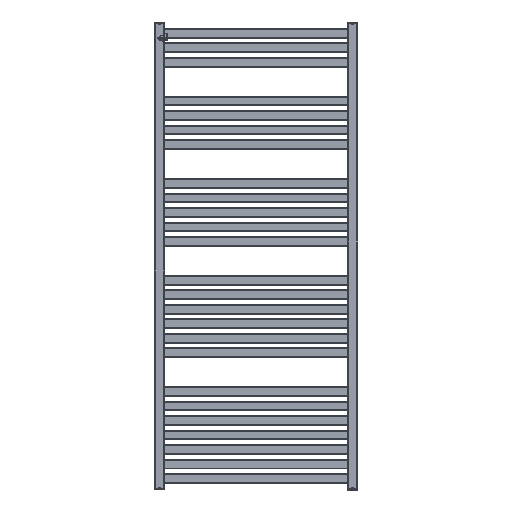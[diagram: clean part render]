
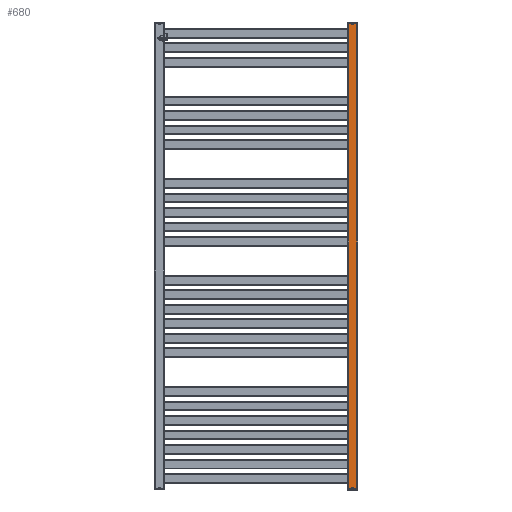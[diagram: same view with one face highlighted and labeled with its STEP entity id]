
A CAD part, front view. The second image highlights one B-rep face of the part: STEP entity #680.
In plain terms, the highlighted planar face has unit normal (0, -1, 0) as drawn and (-1, 0, 0) by its records, which use the part's own axes.
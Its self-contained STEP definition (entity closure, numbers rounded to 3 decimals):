
#680 = ADVANCED_FACE( '', ( #1506 ), #1507, .T. );
#1506 = FACE_OUTER_BOUND( '', #2440, .T. );
#1507 = PLANE( '', #2441 );
#2440 = EDGE_LOOP( '', ( #4658, #4659, #4660, #4661 ) );
#2441 = AXIS2_PLACEMENT_3D( '', #4662, #4663, #4664 );
#4658 = ORIENTED_EDGE( '', *, *, #5639, .T. );
#4659 = ORIENTED_EDGE( '', *, *, #6172, .T. );
#4660 = ORIENTED_EDGE( '', *, *, #6207, .F. );
#4661 = ORIENTED_EDGE( '', *, *, #6208, .T. );
#4662 = CARTESIAN_POINT( '', ( -15., 1446., 15. ) );
#4663 = DIRECTION( '', ( -1., 0., 0. ) );
#4664 = DIRECTION( '', ( 0., 0., 1. ) );
#5639 = EDGE_CURVE( '', #6915, #6913, #6916, .T. );
#6172 = EDGE_CURVE( '', #6913, #7666, #7668, .T. );
#6207 = EDGE_CURVE( '', #7704, #7666, #7705, .T. );
#6208 = EDGE_CURVE( '', #7704, #6915, #7706, .F. );
#6913 = VERTEX_POINT( '', #8587 );
#6915 = VERTEX_POINT( '', #8589 );
#6916 = LINE( '', #8590, #8591 );
#7666 = VERTEX_POINT( '', #9622 );
#7668 = LINE( '', #9624, #9625 );
#7704 = VERTEX_POINT( '', #9673 );
#7705 = LINE( '', #9674, #9675 );
#7706 = LINE( '', #9676, #9677 );
#8587 = CARTESIAN_POINT( '', ( -15., 1446., -12. ) );
#8589 = CARTESIAN_POINT( '', ( -15., 1446., 12. ) );
#8590 = CARTESIAN_POINT( '', ( -15., 1446., 15. ) );
#8591 = VECTOR( '', #10352, 1000. );
#9622 = CARTESIAN_POINT( '', ( -15., 0., -12. ) );
#9624 = CARTESIAN_POINT( '', ( -15., 1446., -12. ) );
#9625 = VECTOR( '', #10988, 1000. );
#9673 = CARTESIAN_POINT( '', ( -15., 0., 12. ) );
#9674 = CARTESIAN_POINT( '', ( -15., 0., 15. ) );
#9675 = VECTOR( '', #11010, 1000. );
#9676 = CARTESIAN_POINT( '', ( -15., 1446., 12. ) );
#9677 = VECTOR( '', #11011, 1000. );
#10352 = DIRECTION( '', ( 0., 0., -1. ) );
#10988 = DIRECTION( '', ( 0., -1., 0. ) );
#11010 = DIRECTION( '', ( 0., 0., -1. ) );
#11011 = DIRECTION( '', ( 0., -1., 0. ) );
